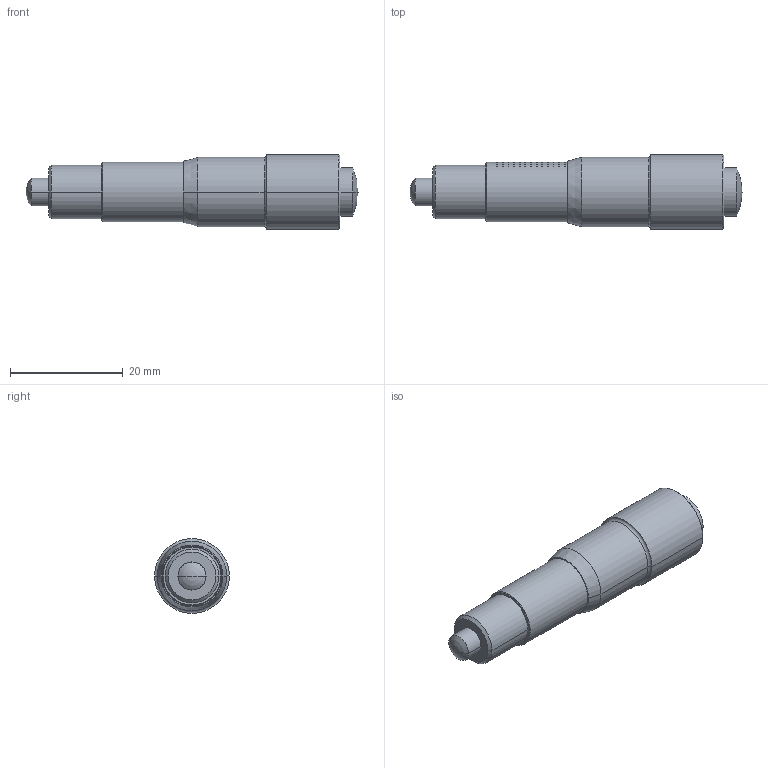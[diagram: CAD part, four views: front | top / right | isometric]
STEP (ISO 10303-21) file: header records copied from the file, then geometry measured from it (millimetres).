
FILE_DESCRIPTION((''),'2;1');
FILE_NAME('MICRO-HEAD-13NEW-SJP','2021-07-12T17:47:21',('windows10'),(''),'CREO PARAMETRIC BY PTC INC, 2018260','CREO PARAMETRIC BY PTC INC, 2018260','');
FILE_SCHEMA(('CONFIG_CONTROL_DESIGN'));
Length unit declared in the file: millimetre
Products named in the file (1): MICRO-HEAD-13NEW-SJP
Bounding box: 59 x 13.3 x 13.3 mm (x, y, z)
Volume: 4987.1 mm3; surface area: 4254.7 mm2
Topology: 2 solids, 3 shells, 322 faces, 829 edges, 546 vertices
Faces by surface type: plane 253, cylinder 51, cone 10, torus 4, sphere 4
Entity records: 9776 total; most frequent: CARTESIAN_POINT 2135, ORIENTED_EDGE 1646, DIRECTION 1449, EDGE_CURVE 825, VERTEX_POINT 546, AXIS2_PLACEMENT_3D 521, VECTOR 407, LINE 407
